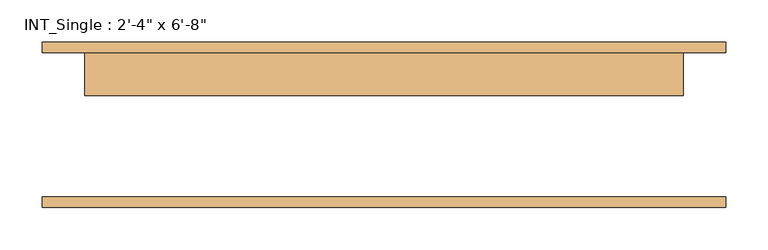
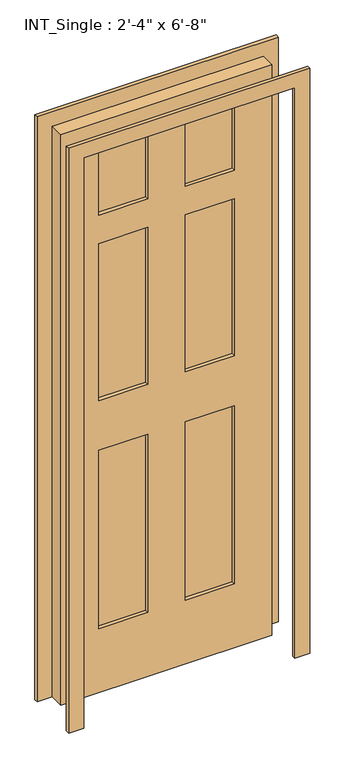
"""IFC4 building model written with IfcOpenShell, lengths in millimetres: door geometry."""

from ifc_helpers import new_model, si_unit, frame, origin, place, context, project, spatial, polyline, outline, extrude, source, transform, mapped, element, save


def door_5d78ae58(model_context):
    return source(origin(), model_context, "Body", "SweptSolid", [
        extrude(outline(polyline([(0.0, -406.4), (0.0, -355.6), (2032.0, -355.6), (2032.0, 355.6), (0.0, 355.6), (0.0, 406.4), (2082.8, 406.4), (2082.8, -406.4), (0.0, -406.4)])), frame((0.0, -98.425, 0.0), z_axis=(0.0, 1.0, 0.0), x_axis=(0.0, 0.0, 1.0)), (0.0, 0.0, 1.0), 12.7),
        extrude(outline(polyline([(0.0, 406.4), (2082.8, 406.4), (2082.8, -406.4), (0.0, -406.4), (0.0, -355.6), (2032.0, -355.6), (2032.0, 355.6), (0.0, 355.6), (0.0, 406.4)])), frame((0.0, 85.725, 0.0), z_axis=(0.0, 1.0, 0.0), x_axis=(0.0, 0.0, 1.0)), (0.0, 0.0, 1.0), 12.7),
        extrude(outline(polyline([(-63.5, 47.625), (-228.6, 47.625), (-228.6, 73.025), (-63.5, 73.025), (-63.5, 47.625)])), frame((0.0, 0.0, 1701.8), z_axis=(0.0, 0.0, 1.0), x_axis=(1.0, 0.0, 0.0)), (0.0, 0.0, 1.0), 228.6),
        extrude(outline(polyline([(228.6, 47.625), (63.5, 47.625), (63.5, 73.025), (228.6, 73.025), (228.6, 47.625)])), frame((0.0, 0.0, 1701.8), z_axis=(0.0, 0.0, 1.0), x_axis=(1.0, 0.0, 0.0)), (0.0, 0.0, 1.0), 228.6),
        extrude(outline(polyline([(-63.5, 47.625), (-228.6, 47.625), (-228.6, 73.025), (-63.5, 73.025), (-63.5, 47.625)])), frame((0.0, 0.0, 1041.4), z_axis=(0.0, 0.0, 1.0), x_axis=(1.0, 0.0, 0.0)), (0.0, 0.0, 1.0), 558.8),
        extrude(outline(polyline([(228.6, 47.625), (63.5, 47.625), (63.5, 73.025), (228.6, 73.025), (228.6, 47.625)])), frame((0.0, 0.0, 1041.4), z_axis=(0.0, 0.0, 1.0), x_axis=(1.0, 0.0, 0.0)), (0.0, 0.0, 1.0), 558.8),
        extrude(outline(polyline([(-63.5, 47.625), (-228.6, 47.625), (-228.6, 73.025), (-63.5, 73.025), (-63.5, 47.625)])), frame((0.0, 0.0, 228.6), z_axis=(0.0, 0.0, 1.0), x_axis=(1.0, 0.0, 0.0)), (0.0, 0.0, 1.0), 635.0),
        extrude(outline(polyline([(228.6, 47.625), (63.5, 47.625), (63.5, 73.025), (228.6, 73.025), (228.6, 47.625)])), frame((0.0, 0.0, 228.6), z_axis=(0.0, 0.0, 1.0), x_axis=(1.0, 0.0, 0.0)), (0.0, 0.0, 1.0), 635.0),
        extrude(outline(polyline([(2032.0, 355.6), (2032.0, -355.6), (0.0, -355.6), (0.0, 355.6), (2032.0, 355.6)]), holes=[polyline([(1930.4, -63.5), (1701.8, -63.5), (1701.8, -228.6), (1930.4, -228.6), (1930.4, -63.5)]), polyline([(1930.4, 228.6), (1701.8, 228.6), (1701.8, 63.5), (1930.4, 63.5), (1930.4, 228.6)]), polyline([(1600.2, -63.5), (1041.4, -63.5), (1041.4, -228.6), (1600.2, -228.6), (1600.2, -63.5)]), polyline([(1600.2, 228.6), (1041.4, 228.6), (1041.4, 63.5), (1600.2, 63.5), (1600.2, 228.6)]), polyline([(863.6, -63.5), (228.6, -63.5), (228.6, -228.6), (863.6, -228.6), (863.6, -63.5)]), polyline([(863.6, 228.6), (228.6, 228.6), (228.6, 63.5), (863.6, 63.5), (863.6, 228.6)])]), frame((0.0, 34.925, 0.0), z_axis=(0.0, 1.0, 0.0), x_axis=(0.0, 0.0, 1.0)), (0.0, 0.0, 1.0), 50.8),
    ])


if __name__ == "__main__":
    model = new_model("IFC4")
    model_context = context("Model", 3, world=origin())
    ifc_project = project(units=[si_unit("LENGTHUNIT", "METRE", prefix="MILLI")], contexts=[model_context])
    site = spatial("IfcSite", under=ifc_project)
    building = spatial("IfcBuilding", under=site)
    placement = place(None, origin())
    door_shape = door_5d78ae58(model_context)
    element("IfcDoor", 1, ObjectType="INT_Single : 2'-4\" x 6'-8\"", at=placement, inside=building, context=model_context, shape_type="MappedRepresentation", body=[
        mapped(door_shape, transform((0.0, 0.0, 0.0), x_axis=(1.0, 0.0, 0.0), y_axis=(0.0, 1.0, 0.0), z_axis=(0.0, 0.0, 1.0))),
    ])
    save(model, "model.ifc")
